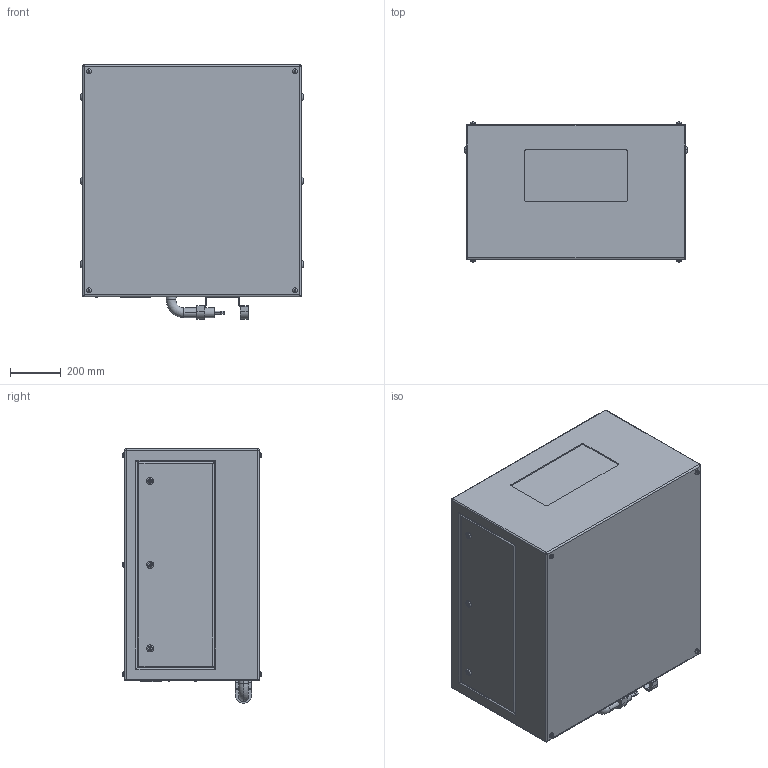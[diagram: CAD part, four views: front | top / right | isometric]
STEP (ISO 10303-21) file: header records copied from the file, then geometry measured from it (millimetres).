
FILE_DESCRIPTION (( 'STEP AP214' ), '1' );
FILE_NAME ('Oasis 59.125.L R02.STEP', '2022-08-27T16:00:03', ( '' ), ( '' ), 'SwSTEP 2.0', 'SolidWorks 2020', '' );
FILE_SCHEMA (( 'AUTOMOTIVE_DESIGN' ));
Length unit declared in the file: inch
Products named in the file (1): Oasis 59.125.L R02
Bounding box: 876.3 x 550.67 x 1003.3 mm (x, y, z)
Volume: 420724849.1 mm3; surface area: 3792383.9 mm2
Topology: 2 solids, 8 shells, 495 faces, 1131 edges, 716 vertices
Faces by surface type: plane 271, cylinder 170, torus 46, bspline 8
Entity records: 18948 total; most frequent: CARTESIAN_POINT 2855, DIRECTION 2463, ORIENTED_EDGE 2246, EDGE_CURVE 1123, AXIS2_PLACEMENT_3D 884, VERTEX_POINT 716, VECTOR 695, LINE 695
